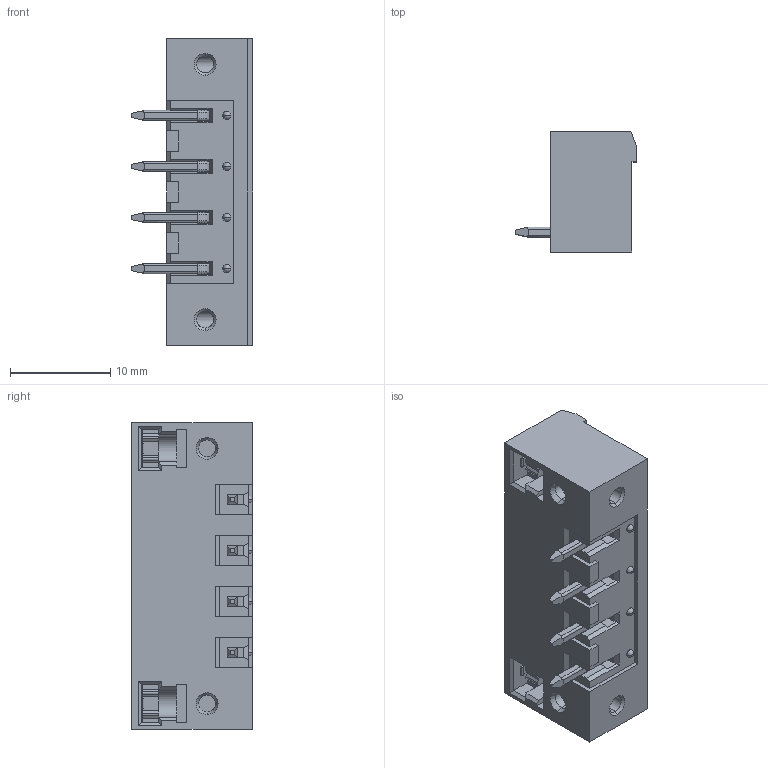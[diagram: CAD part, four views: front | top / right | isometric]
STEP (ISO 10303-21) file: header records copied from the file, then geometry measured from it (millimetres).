
FILE_DESCRIPTION((''),'2;1');
FILE_NAME('4PIN_ASM','2023-01-12T',('renkang.li'),(''),'CREO PARAMETRIC BY PTC INC, 2016260','CREO PARAMETRIC BY PTC INC, 2016260','');
FILE_SCHEMA(('CONFIG_CONTROL_DESIGN'));
Length unit declared in the file: millimetre
Products named in the file (1): 4PIN_ASM
Bounding box: 12.05 x 12 x 30.48 mm (x, y, z)
Volume: 1569.4 mm3; surface area: 2782.8 mm2
Topology: 1 solids, 1 shells, 567 faces, 1689 edges, 1072 vertices
Faces by surface type: plane 397, cylinder 110, torus 24, cone 20, sphere 8, bspline 8
Entity records: 20824 total; most frequent: CARTESIAN_POINT 5621, ORIENTED_EDGE 3362, DIRECTION 2953, EDGE_CURVE 1681, VECTOR 1231, LINE 1231, VERTEX_POINT 1072, AXIS2_PLACEMENT_3D 861
